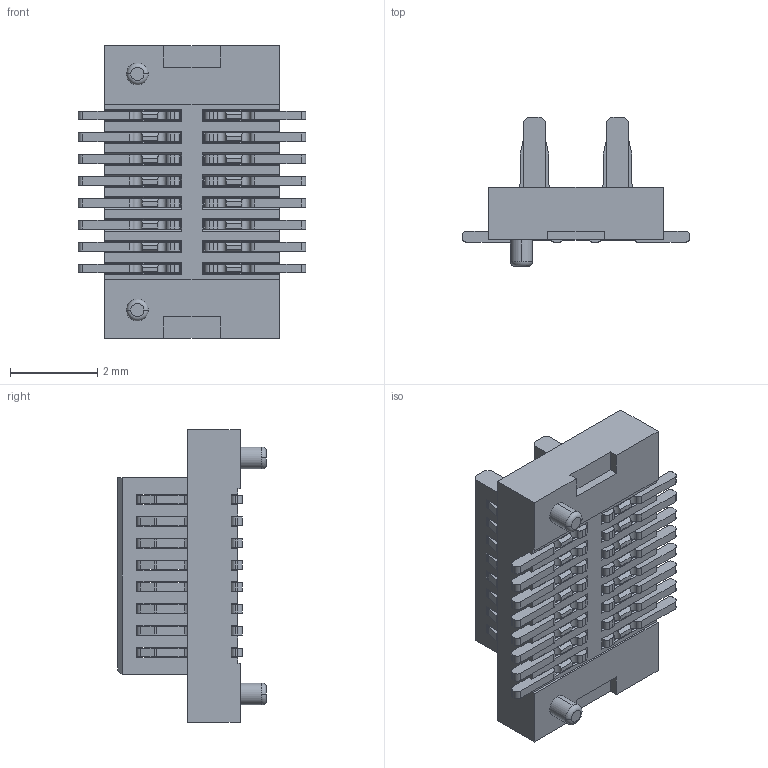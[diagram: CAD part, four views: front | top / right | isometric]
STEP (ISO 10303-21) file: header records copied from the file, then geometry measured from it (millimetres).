
FILE_DESCRIPTION (( 'STEP AP203' ), '1' );
FILE_NAME ('GT-B0501MSV13-16B1101.STEP', '2024-04-24T01:54:37', ( '' ), ( '' ), 'SwSTEP 2.0', 'SolidWorks 2023', '' );
FILE_SCHEMA (( 'CONFIG_CONTROL_DESIGN' ));
Length unit declared in the file: millimetre
Products named in the file (1): GT-B0501MSV13-16B1101
Bounding box: 5.2 x 3.4 x 6.7 mm (x, y, z)
Volume: 38.9 mm3; surface area: 184.8 mm2
Topology: 1 solids, 1 shells, 940 faces, 2716 edges, 1788 vertices
Faces by surface type: plane 650, cylinder 212, bspline 74, torus 4
Entity records: 34541 total; most frequent: CARTESIAN_POINT 9855, ORIENTED_EDGE 5432, DIRECTION 4674, EDGE_CURVE 2716, LINE 2068, VECTOR 2068, VERTEX_POINT 1788, AXIS2_PLACEMENT_3D 1303
